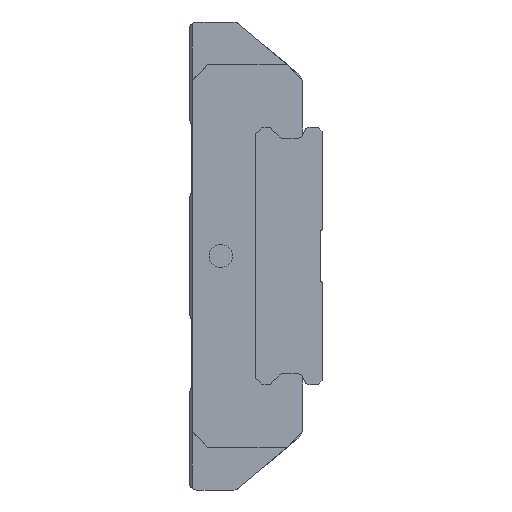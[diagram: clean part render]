
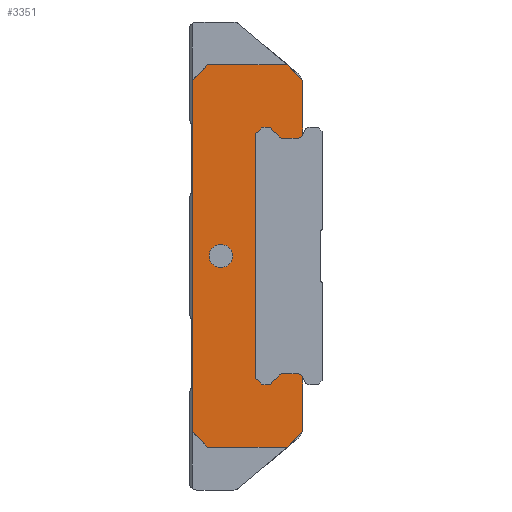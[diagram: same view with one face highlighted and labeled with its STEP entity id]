
A CAD part, left-side view. The second image highlights one B-rep face of the part: STEP entity #3351.
In plain terms, the highlighted planar face has unit normal (-1, 0, 0).
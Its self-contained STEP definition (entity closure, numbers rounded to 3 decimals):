
#177=CIRCLE('',#3695,1.5);
#178=CIRCLE('',#3696,0.5);
#179=CIRCLE('',#3697,0.5);
#180=CIRCLE('',#3698,1.03);
#181=CIRCLE('',#3699,0.1);
#182=CIRCLE('',#3700,0.1);
#183=CIRCLE('',#3701,1.03);
#184=CIRCLE('',#3702,1.03);
#185=CIRCLE('',#3703,0.1);
#186=CIRCLE('',#3704,0.1);
#187=CIRCLE('',#3705,1.03);
#188=CIRCLE('',#3706,0.5);
#189=CIRCLE('',#3707,0.5);
#939=ORIENTED_EDGE('',*,*,#1587,.T.);
#940=ORIENTED_EDGE('',*,*,#1588,.T.);
#941=ORIENTED_EDGE('',*,*,#1510,.F.);
#942=ORIENTED_EDGE('',*,*,#1478,.F.);
#943=ORIENTED_EDGE('',*,*,#1474,.F.);
#944=ORIENTED_EDGE('',*,*,#1468,.F.);
#945=ORIENTED_EDGE('',*,*,#1502,.F.);
#946=ORIENTED_EDGE('',*,*,#1455,.F.);
#947=ORIENTED_EDGE('',*,*,#1489,.F.);
#948=ORIENTED_EDGE('',*,*,#1486,.F.);
#949=ORIENTED_EDGE('',*,*,#1512,.F.);
#950=ORIENTED_EDGE('',*,*,#1589,.T.);
#951=ORIENTED_EDGE('',*,*,#1590,.F.);
#952=ORIENTED_EDGE('',*,*,#1591,.T.);
#953=ORIENTED_EDGE('',*,*,#1592,.F.);
#954=ORIENTED_EDGE('',*,*,#1593,.T.);
#955=ORIENTED_EDGE('',*,*,#1594,.F.);
#956=ORIENTED_EDGE('',*,*,#1595,.T.);
#957=ORIENTED_EDGE('',*,*,#1596,.T.);
#958=ORIENTED_EDGE('',*,*,#1597,.T.);
#959=ORIENTED_EDGE('',*,*,#1598,.F.);
#960=ORIENTED_EDGE('',*,*,#1494,.T.);
#961=ORIENTED_EDGE('',*,*,#1599,.F.);
#962=ORIENTED_EDGE('',*,*,#1600,.T.);
#963=ORIENTED_EDGE('',*,*,#1601,.T.);
#964=ORIENTED_EDGE('',*,*,#1602,.T.);
#965=ORIENTED_EDGE('',*,*,#1603,.F.);
#966=ORIENTED_EDGE('',*,*,#1604,.T.);
#967=ORIENTED_EDGE('',*,*,#1605,.F.);
#968=ORIENTED_EDGE('',*,*,#1606,.T.);
#969=ORIENTED_EDGE('',*,*,#1607,.F.);
#1455=EDGE_CURVE('',#1861,#1862,#2151,.T.);
#1468=EDGE_CURVE('',#1872,#1873,#2164,.T.);
#1474=EDGE_CURVE('',#1873,#1877,#2170,.T.);
#1478=EDGE_CURVE('',#1877,#1879,#2174,.T.);
#1486=EDGE_CURVE('',#1885,#1886,#2182,.T.);
#1489=EDGE_CURVE('',#1886,#1861,#2185,.T.);
#1494=EDGE_CURVE('',#1888,#1890,#2190,.T.);
#1502=EDGE_CURVE('',#1862,#1872,#2196,.T.);
#1510=EDGE_CURVE('',#1879,#1894,#2204,.T.);
#1512=EDGE_CURVE('',#1897,#1885,#2206,.T.);
#1587=EDGE_CURVE('',#1945,#1945,#177,.T.);
#1588=EDGE_CURVE('',#1946,#1894,#2249,.T.);
#1589=EDGE_CURVE('',#1897,#1947,#2250,.T.);
#1590=EDGE_CURVE('',#1948,#1947,#178,.T.);
#1591=EDGE_CURVE('',#1948,#1949,#2251,.T.);
#1592=EDGE_CURVE('',#1950,#1949,#179,.T.);
#1593=EDGE_CURVE('',#1950,#1951,#2252,.T.);
#1594=EDGE_CURVE('',#1952,#1951,#180,.T.);
#1595=EDGE_CURVE('',#1952,#1953,#181,.T.);
#1596=EDGE_CURVE('',#1953,#1954,#2253,.T.);
#1597=EDGE_CURVE('',#1954,#1955,#182,.T.);
#1598=EDGE_CURVE('',#1888,#1955,#183,.T.);
#1599=EDGE_CURVE('',#1956,#1890,#184,.T.);
#1600=EDGE_CURVE('',#1956,#1957,#185,.T.);
#1601=EDGE_CURVE('',#1957,#1958,#2254,.T.);
#1602=EDGE_CURVE('',#1958,#1959,#186,.T.);
#1603=EDGE_CURVE('',#1960,#1959,#187,.T.);
#1604=EDGE_CURVE('',#1960,#1961,#2255,.T.);
#1605=EDGE_CURVE('',#1962,#1961,#188,.T.);
#1606=EDGE_CURVE('',#1962,#1963,#2256,.T.);
#1607=EDGE_CURVE('',#1946,#1963,#189,.T.);
#1861=VERTEX_POINT('',#5304);
#1862=VERTEX_POINT('',#5306);
#1872=VERTEX_POINT('',#5329);
#1873=VERTEX_POINT('',#5331);
#1877=VERTEX_POINT('',#5343);
#1879=VERTEX_POINT('',#5350);
#1885=VERTEX_POINT('',#5364);
#1886=VERTEX_POINT('',#5366);
#1888=VERTEX_POINT('',#5376);
#1890=VERTEX_POINT('',#5380);
#1894=VERTEX_POINT('',#5403);
#1897=VERTEX_POINT('',#5413);
#1945=VERTEX_POINT('',#5576);
#1946=VERTEX_POINT('',#5578);
#1947=VERTEX_POINT('',#5580);
#1948=VERTEX_POINT('',#5582);
#1949=VERTEX_POINT('',#5584);
#1950=VERTEX_POINT('',#5586);
#1951=VERTEX_POINT('',#5588);
#1952=VERTEX_POINT('',#5590);
#1953=VERTEX_POINT('',#5592);
#1954=VERTEX_POINT('',#5594);
#1955=VERTEX_POINT('',#5596);
#1956=VERTEX_POINT('',#5599);
#1957=VERTEX_POINT('',#5601);
#1958=VERTEX_POINT('',#5603);
#1959=VERTEX_POINT('',#5605);
#1960=VERTEX_POINT('',#5607);
#1961=VERTEX_POINT('',#5609);
#1962=VERTEX_POINT('',#5611);
#1963=VERTEX_POINT('',#5613);
#2151=LINE('',#5305,#2457);
#2164=LINE('',#5330,#2470);
#2170=LINE('',#5342,#2476);
#2174=LINE('',#5349,#2480);
#2182=LINE('',#5365,#2488);
#2185=LINE('',#5370,#2491);
#2190=LINE('',#5381,#2496);
#2196=LINE('',#5396,#2502);
#2204=LINE('',#5410,#2510);
#2206=LINE('',#5415,#2512);
#2249=LINE('',#5577,#2555);
#2250=LINE('',#5579,#2556);
#2251=LINE('',#5583,#2557);
#2252=LINE('',#5587,#2558);
#2253=LINE('',#5593,#2559);
#2254=LINE('',#5602,#2560);
#2255=LINE('',#5608,#2561);
#2256=LINE('',#5612,#2562);
#2457=VECTOR('',#4286,1000.);
#2470=VECTOR('',#4301,1000.);
#2476=VECTOR('',#4311,1000.);
#2480=VECTOR('',#4317,1000.);
#2488=VECTOR('',#4327,1000.);
#2491=VECTOR('',#4332,1000.);
#2496=VECTOR('',#4341,1000.);
#2502=VECTOR('',#4361,1000.);
#2510=VECTOR('',#4373,1000.);
#2512=VECTOR('',#4377,1000.);
#2555=VECTOR('',#4564,1000.);
#2556=VECTOR('',#4565,1000.);
#2557=VECTOR('',#4568,1000.);
#2558=VECTOR('',#4571,1000.);
#2559=VECTOR('',#4576,1000.);
#2560=VECTOR('',#4585,1000.);
#2561=VECTOR('',#4590,1000.);
#2562=VECTOR('',#4593,1000.);
#2797=EDGE_LOOP('',(#939));
#2798=EDGE_LOOP('',(#940,#941,#942,#943,#944,#945,#946,#947,#948,#949,#950,
#951,#952,#953,#954,#955,#956,#957,#958,#959,#960,#961,#962,#963,#964,#965,
#966,#967,#968,#969));
#3047=FACE_BOUND('',#2797,.T.);
#3048=FACE_BOUND('',#2798,.T.);
#3183=PLANE('',#3694);
#3351=ADVANCED_FACE('',(#3047,#3048),#3183,.F.);
#3694=AXIS2_PLACEMENT_3D('',#5574,#4560,#4561);
#3695=AXIS2_PLACEMENT_3D('',#5575,#4562,#4563);
#3696=AXIS2_PLACEMENT_3D('',#5581,#4566,#4567);
#3697=AXIS2_PLACEMENT_3D('',#5585,#4569,#4570);
#3698=AXIS2_PLACEMENT_3D('',#5589,#4572,#4573);
#3699=AXIS2_PLACEMENT_3D('',#5591,#4574,#4575);
#3700=AXIS2_PLACEMENT_3D('',#5595,#4577,#4578);
#3701=AXIS2_PLACEMENT_3D('',#5597,#4579,#4580);
#3702=AXIS2_PLACEMENT_3D('',#5598,#4581,#4582);
#3703=AXIS2_PLACEMENT_3D('',#5600,#4583,#4584);
#3704=AXIS2_PLACEMENT_3D('',#5604,#4586,#4587);
#3705=AXIS2_PLACEMENT_3D('',#5606,#4588,#4589);
#3706=AXIS2_PLACEMENT_3D('',#5610,#4591,#4592);
#3707=AXIS2_PLACEMENT_3D('',#5614,#4594,#4595);
#4286=DIRECTION('',(0.,0.707,0.707));
#4301=DIRECTION('',(0.,-0.707,0.707));
#4311=DIRECTION('',(0.,-1.,0.));
#4317=DIRECTION('',(0.,-0.707,-0.707));
#4327=DIRECTION('',(0.,0.707,-0.707));
#4332=DIRECTION('',(0.,1.,0.));
#4341=DIRECTION('',(0.,0.,1.));
#4361=DIRECTION('',(0.,0.,1.));
#4373=DIRECTION('',(0.,0.,-1.));
#4377=DIRECTION('',(0.,0.,-1.));
#4560=DIRECTION('',(1.,0.,0.));
#4561=DIRECTION('',(0.,0.,-1.));
#4562=DIRECTION('',(1.,0.,0.));
#4563=DIRECTION('',(0.,0.,-1.));
#4564=DIRECTION('',(0.,-0.5,0.866));
#4565=DIRECTION('',(0.,0.5,0.866));
#4566=DIRECTION('',(1.,0.,0.));
#4567=DIRECTION('',(0.,0.,-1.));
#4568=DIRECTION('',(0.,1.,0.));
#4569=DIRECTION('',(1.,0.,0.));
#4570=DIRECTION('',(0.,0.,-1.));
#4571=DIRECTION('',(0.,0.699,-0.715));
#4572=DIRECTION('',(1.,0.,0.));
#4573=DIRECTION('',(0.,0.,-1.));
#4574=DIRECTION('',(1.,0.,0.));
#4575=DIRECTION('',(0.,0.,-1.));
#4576=DIRECTION('',(0.,1.,0.));
#4577=DIRECTION('',(1.,0.,0.));
#4578=DIRECTION('',(0.,0.,-1.));
#4579=DIRECTION('',(1.,0.,0.));
#4580=DIRECTION('',(0.,0.,-1.));
#4581=DIRECTION('',(1.,0.,0.));
#4582=DIRECTION('',(0.,0.,-1.));
#4583=DIRECTION('',(1.,0.,0.));
#4584=DIRECTION('',(0.,0.,-1.));
#4585=DIRECTION('',(0.,-1.,0.));
#4586=DIRECTION('',(1.,0.,0.));
#4587=DIRECTION('',(0.,0.,-1.));
#4588=DIRECTION('',(1.,0.,0.));
#4589=DIRECTION('',(0.,0.,-1.));
#4590=DIRECTION('',(0.,-0.699,-0.715));
#4591=DIRECTION('',(1.,0.,0.));
#4592=DIRECTION('',(0.,0.,-1.));
#4593=DIRECTION('',(0.,-1.,0.));
#4594=DIRECTION('',(1.,0.,0.));
#4595=DIRECTION('',(0.,0.,-1.));
#5304=CARTESIAN_POINT('',(-25.5,12.2,-24.5));
#5305=CARTESIAN_POINT('',(-25.5,12.2,-24.5));
#5306=CARTESIAN_POINT('',(-25.5,14.2,-22.5));
#5329=CARTESIAN_POINT('',(-25.5,14.2,22.5));
#5330=CARTESIAN_POINT('',(-25.5,14.2,22.5));
#5331=CARTESIAN_POINT('',(-25.5,12.2,24.5));
#5342=CARTESIAN_POINT('',(-25.5,12.2,24.5));
#5343=CARTESIAN_POINT('',(-25.5,2.,24.5));
#5349=CARTESIAN_POINT('',(-25.5,2.,24.5));
#5350=CARTESIAN_POINT('',(-25.5,0.,22.5));
#5364=CARTESIAN_POINT('',(-25.5,0.,-22.5));
#5365=CARTESIAN_POINT('',(-25.5,0.,-22.5));
#5366=CARTESIAN_POINT('',(-25.5,2.,-24.5));
#5370=CARTESIAN_POINT('',(-25.5,2.,-24.5));
#5376=CARTESIAN_POINT('',(-25.5,6.1,-15.762));
#5380=CARTESIAN_POINT('',(-25.5,6.1,15.762));
#5381=CARTESIAN_POINT('',(-25.5,6.1,-15.762));
#5396=CARTESIAN_POINT('',(-25.5,14.2,-22.5));
#5403=CARTESIAN_POINT('',(-25.5,0.,15.634));
#5410=CARTESIAN_POINT('',(-25.5,0.,22.5));
#5413=CARTESIAN_POINT('',(-25.5,0.,-15.634));
#5415=CARTESIAN_POINT('',(-25.5,0.,22.5));
#5574=CARTESIAN_POINT('',(-25.5,0.,0.));
#5575=CARTESIAN_POINT('',(-25.5,10.5,0.));
#5576=CARTESIAN_POINT('',(-25.5,10.5,-1.5));
#5577=CARTESIAN_POINT('',(-25.5,0.164,15.35));
#5578=CARTESIAN_POINT('',(-25.5,0.164,15.35));
#5579=CARTESIAN_POINT('',(-25.5,-0.356,-16.25));
#5580=CARTESIAN_POINT('',(-25.5,0.164,-15.35));
#5581=CARTESIAN_POINT('',(-25.5,0.597,-15.6));
#5582=CARTESIAN_POINT('',(-25.5,0.597,-15.1));
#5583=CARTESIAN_POINT('',(-25.5,0.597,-15.1));
#5584=CARTESIAN_POINT('',(-25.5,2.574,-15.1));
#5585=CARTESIAN_POINT('',(-25.5,2.574,-15.6));
#5586=CARTESIAN_POINT('',(-25.5,2.932,-15.251));
#5587=CARTESIAN_POINT('',(-25.5,2.932,-15.251));
#5588=CARTESIAN_POINT('',(-25.5,3.47,-15.802));
#5589=CARTESIAN_POINT('',(-25.5,3.121,-16.771));
#5590=CARTESIAN_POINT('',(-25.5,4.094,-16.433));
#5591=CARTESIAN_POINT('',(-25.5,4.188,-16.4));
#5592=CARTESIAN_POINT('',(-25.5,4.188,-16.5));
#5593=CARTESIAN_POINT('',(-25.5,4.188,-16.5));
#5594=CARTESIAN_POINT('',(-25.5,5.241,-16.5));
#5595=CARTESIAN_POINT('',(-25.5,5.241,-16.4));
#5596=CARTESIAN_POINT('',(-25.5,5.335,-16.433));
#5597=CARTESIAN_POINT('',(-25.5,6.308,-16.771));
#5598=CARTESIAN_POINT('',(-25.5,6.308,16.771));
#5599=CARTESIAN_POINT('',(-25.5,5.335,16.433));
#5600=CARTESIAN_POINT('',(-25.5,5.241,16.4));
#5601=CARTESIAN_POINT('',(-25.5,5.241,16.5));
#5602=CARTESIAN_POINT('',(-25.5,5.241,16.5));
#5603=CARTESIAN_POINT('',(-25.5,4.188,16.5));
#5604=CARTESIAN_POINT('',(-25.5,4.188,16.4));
#5605=CARTESIAN_POINT('',(-25.5,4.094,16.433));
#5606=CARTESIAN_POINT('',(-25.5,3.121,16.771));
#5607=CARTESIAN_POINT('',(-25.5,3.47,15.802));
#5608=CARTESIAN_POINT('',(-25.5,3.47,15.802));
#5609=CARTESIAN_POINT('',(-25.5,2.932,15.251));
#5610=CARTESIAN_POINT('',(-25.5,2.574,15.6));
#5611=CARTESIAN_POINT('',(-25.5,2.574,15.1));
#5612=CARTESIAN_POINT('',(-25.5,2.574,15.1));
#5613=CARTESIAN_POINT('',(-25.5,0.597,15.1));
#5614=CARTESIAN_POINT('',(-25.5,0.597,15.6));
